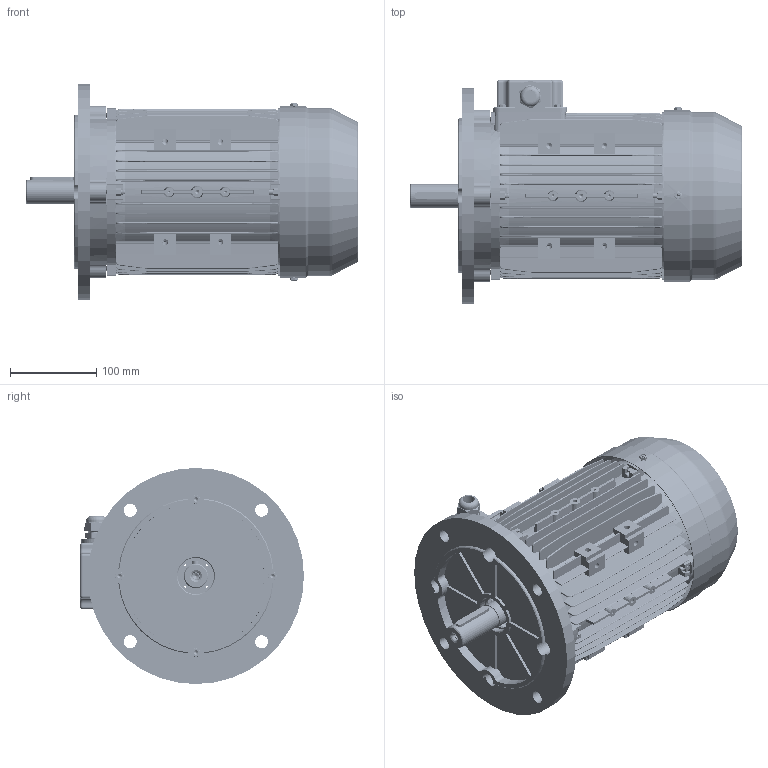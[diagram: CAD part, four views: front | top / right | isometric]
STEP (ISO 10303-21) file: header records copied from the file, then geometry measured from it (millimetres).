
FILE_DESCRIPTION (( 'STEP AP203' ), '1' );
FILE_NAME ('MSL100L assembly B5.STEP', '2017-11-26T09:48:04', ( 'user' ), ( 'china' ), 'SwSTEP 2.0', 'SolidWorks 2016', '' );
FILE_SCHEMA (( 'CONFIG_CONTROL_DESIGN' ));
Length unit declared in the file: millimetre
Products named in the file (15): M100傷裔B5; M20 cable gland; M100瑞欶_090; GB-T 70.1-2000 M6_34; GB-T 5780-2000 M6_035; MSL100L assembly B5; M100-Shaft drive end; GB-T 41-2000 M6; GB-T 29.2-1988 M5鞠褒坋趼湍菜_08; MSL80-90堤盄碟_MSL80-90; GB-T 29.2-1988 M4鞠褒坋趼湍菜_05; MSL80-90堤盄碟蚾饜; M100儂褲_M100L; M100傷裔_NonDriveEnd; MS100 綴裔瑞欶郪磁_90
Assembly tree (32 placements, depth 3):
  MSL100L assembly B5
    M100儂褲_M100L
    M100-Shaft drive end
    MS100 綴裔瑞欶郪磁_90
      M100傷裔_NonDriveEnd
      M100瑞欶_090
      GB-T 29.2-1988 M5鞠褒坋趼湍菜_08  x3
    GB-T 41-2000 M6  x8
    GB-T 70.1-2000 M6_34  x4
    GB-T 5780-2000 M6_035  x4
    MSL80-90堤盄碟蚾饜
      MSL80-90堤盄碟_MSL80-90
      GB-T 29.2-1988 M4鞠褒坋趼湍菜_05  x4
      M20 cable gland
    M100傷裔B5
Bounding box: 384 x 259 x 250 mm (x, y, z)
Volume: 1728951.4 mm3; surface area: 935244.5 mm2
Topology: 30 solids, 30 shells, 5110 faces, 13128 edges, 8104 vertices
Faces by surface type: plane 1883, cylinder 1395, cone 1082, bspline 552, torus 190, sphere 8
Entity records: 152740 total; most frequent: CARTESIAN_POINT 62321, ORIENTED_EDGE 19556, DIRECTION 16916, EDGE_CURVE 9778, VERTEX_POINT 6206, AXIS2_PLACEMENT_3D 5911, VECTOR 5094, LINE 5094
